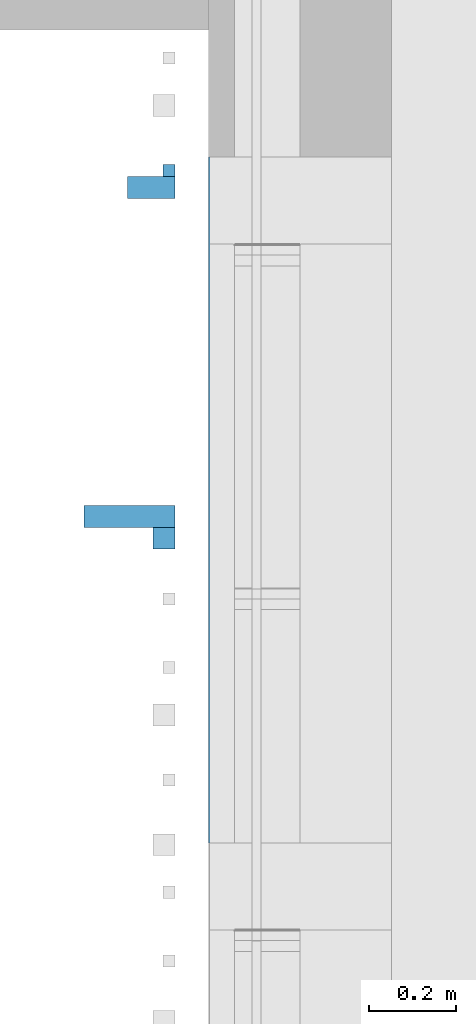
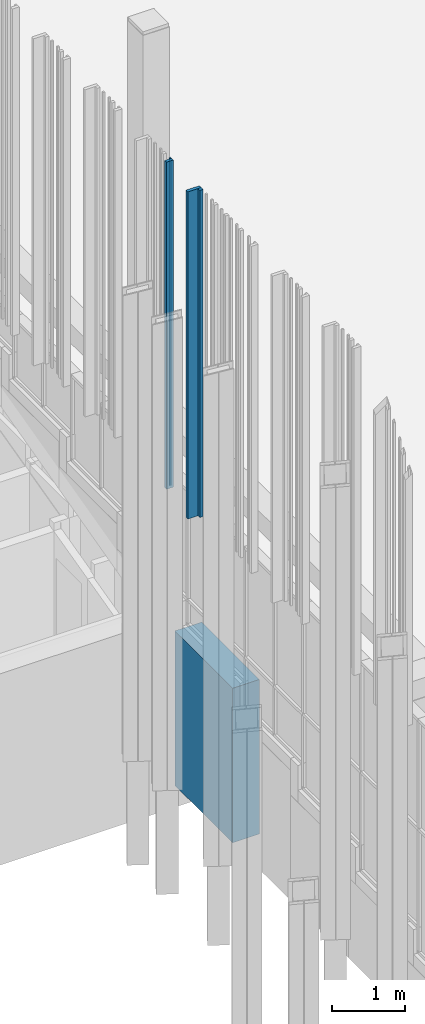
# One storey, part 116 of 390: 5 walls.
"""IFC2X3 building model written with IfcOpenShell, lengths in millimetres."""

from ifc_helpers import new_model, entity, si_unit, converted_unit, derived_unit, money_unit, direction, frame, origin_with_axes, place, context, subcontext, project, spatial, faceted_brep, material, material_list, type_object, element, save


model = new_model("IFC2X3")

# Units and contexts
model_context = context("Model", 3, precision=1e-05, world=origin_with_axes(), true_north=direction((0.0, 1.0)))
body_context = subcontext(model_context, "Body", "Model", "MODEL_VIEW")
ifc_project = project(units=[si_unit("LENGTHUNIT", "METRE", prefix="MILLI"), si_unit("AREAUNIT", "SQUARE_METRE"), si_unit("VOLUMEUNIT", "CUBIC_METRE"), converted_unit("PLANEANGLEUNIT", "DEGREE", entity("IfcPlaneAngleMeasure", 0.0174532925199), si_unit("PLANEANGLEUNIT", "RADIAN"), dimensions=[0, 0, 0, 0, 0, 0, 0]), si_unit("SOLIDANGLEUNIT", "STERADIAN"), money_unit("EUR"), converted_unit("TIMEUNIT", "Year", entity("IfcTimeMeasure", 31556926.0), si_unit("TIMEUNIT", "SECOND"), dimensions=[0, 0, 1, 0, 0, 0, 0]), si_unit("MASSUNIT", "GRAM", prefix="KILO"), si_unit("THERMODYNAMICTEMPERATUREUNIT", "DEGREE_CELSIUS"), si_unit("LUMINOUSINTENSITYUNIT", "LUMEN"), si_unit("ENERGYUNIT", "JOULE", prefix="MEGA"), derived_unit("THERMALCONDUCTANCEUNIT", [(si_unit("POWERUNIT", "WATT"), 1), (si_unit("LENGTHUNIT", "METRE"), -1), (si_unit("THERMODYNAMICTEMPERATUREUNIT", "KELVIN"), -1)]), derived_unit("SPECIFICHEATCAPACITYUNIT", [(si_unit("ENERGYUNIT", "JOULE"), 1), (si_unit("MASSUNIT", "GRAM", prefix="KILO"), -1), (si_unit("THERMODYNAMICTEMPERATUREUNIT", "KELVIN"), -1)]), derived_unit("MASSDENSITYUNIT", [(si_unit("MASSUNIT", "GRAM", prefix="KILO"), 1), (si_unit("VOLUMEUNIT", "CUBIC_METRE"), -1)])], contexts=[model_context])

# Site, building, storey
site_placement = place(None, origin_with_axes())
site = spatial("IfcSite", under=ifc_project, at=site_placement, Name="Site", CompositionType="ELEMENT")
building_placement = place(site_placement, origin_with_axes())
building = spatial("IfcBuilding", under=site, at=building_placement, Name="Building", CompositionType="ELEMENT")
storey_placement = place(building_placement, origin_with_axes())
storey = spatial("IfcBuildingStorey", under=building, at=storey_placement, Name="1 korrus", CompositionType="ELEMENT", Elevation=0.0)

# Walls
ifc_material_1 = material(Name="Membraan - Veekindel")
ifc_material_2 = material(Name="Soojustus - Plastik Kõva")
ifc_material_3 = material(Name="Raudbetoon - Konstruktsioon")
ifc_material_4 = material(Name="Krohv - Lubjakivi")
ifc_material_list = material_list([ifc_material_1, ifc_material_1, ifc_material_2, ifc_material_2, ifc_material_3, ifc_material_4])
wall_type_1 = type_object("IfcWallType", Name="VS-03", PredefinedType="NOTDEFINED")
wall_1_placement = place(storey_placement, frame((122909.999995, 56512.5685601, -620.0), z_axis=(0.0, 0.0, 1.0), x_axis=(0.0, 1.0, 0.0)))
element("IfcWall", 1, at=wall_1_placement, inside=storey, type_object=wall_type_1, material=ifc_material_list, Name="VS-03", context=body_context, shape_type="Brep", body=[
    faceted_brep([(1574.99999999, 420.000000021, 0.0), (1574.99999999, 415.000000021, 0.0), (-5.563549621e-09, 415.0, 0.0), (-5.62749846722e-09, 420.0, 0.0), (1574.99999999, 420.000000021, 2570.0), (1574.99999999, 415.000000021, 2570.0), (-5.563549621e-09, 415.0, 2570.0), (-5.62749846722e-09, 420.0, 2570.0)], [[[0, 1, 2, 3]], [[0, 4, 5, 1]], [[1, 5, 6, 2]], [[3, 2, 6, 7]], [[4, 0, 3, 7]], [[5, 4, 7, 6]]]),
    faceted_brep([(1574.99999999, 415.000000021, 0.0), (1574.99999999, 410.000000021, 0.0), (-5.49249534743e-09, 410.0, 0.0), (-5.563549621e-09, 415.0, 0.0), (1574.99999999, 415.000000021, 2570.0), (1574.99999999, 410.000000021, 2570.0), (-5.49249534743e-09, 410.0, 2570.0), (-5.563549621e-09, 415.0, 2570.0)], [[[0, 1, 2, 3]], [[0, 4, 5, 1]], [[1, 5, 6, 2]], [[3, 2, 6, 7]], [[4, 0, 3, 7]], [[5, 4, 7, 6]]]),
    faceted_brep([(1574.99999999, 410.000000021, 0.0), (1575.0, 360.000000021, 0.0), (-4.82458517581e-09, 360.0, 0.0), (-5.49249534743e-09, 410.0, 0.0), (1574.99999999, 410.000000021, 2570.0), (1575.0, 360.000000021, 2570.0), (-4.82458517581e-09, 360.0, 2570.0), (-5.49249534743e-09, 410.0, 2570.0)], [[[0, 1, 2, 3]], [[0, 4, 5, 1]], [[1, 5, 6, 2]], [[3, 2, 6, 7]], [[4, 0, 3, 7]], [[5, 4, 7, 6]]]),
    faceted_brep([(1575.0, 360.000000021, 0.0), (1575.0, 210.000000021, 0.0), (-2.81374923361e-09, 210.0, 0.0), (-4.82458517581e-09, 360.0, 0.0), (1575.0, 360.000000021, 2570.0), (1575.0, 210.000000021, 2570.0), (-2.81374923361e-09, 210.0, 2570.0), (-4.82458517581e-09, 360.0, 2570.0)], [[[0, 1, 2, 3]], [[0, 4, 5, 1]], [[1, 5, 6, 2]], [[3, 2, 6, 7]], [[4, 0, 3, 7]], [[5, 4, 7, 6]]]),
    faceted_brep([(1575.0, 210.000000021, 0.0), (1575.0, 10.0000000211, 0.0), (-1.35003119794e-10, 10.0, 0.0), (-2.81374923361e-09, 210.0, 0.0), (1575.0, 210.000000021, 2570.0), (1575.0, 10.0000000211, 2570.0), (-1.35003119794e-10, 10.0, 2570.0), (-2.81374923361e-09, 210.0, 2570.0)], [[[0, 1, 2, 3]], [[0, 4, 5, 1]], [[1, 5, 6, 2]], [[3, 2, 6, 7]], [[4, 0, 3, 7]], [[5, 4, 7, 6]]]),
    faceted_brep([(1575.0, 10.0000000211, 0.0), (1575.0, 2.11173301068e-08, 0.0), (0.0, 0.0, 0.0), (-1.35003119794e-10, 10.0, 0.0), (1575.0, 10.0000000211, 2570.0), (1575.0, 2.11173301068e-08, 2570.0), (0.0, 0.0, 2570.0), (-1.35003119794e-10, 10.0, 2570.0)], [[[0, 1, 2, 3]], [[0, 4, 5, 1]], [[1, 5, 6, 2]], [[3, 2, 6, 7]], [[4, 0, 3, 7]], [[5, 4, 7, 6]]]),
])
ifc_material_5 = material(Name="Site specified")
wall_type_2 = type_object("IfcWallType", Name="Puitfassaadi ribistik", PredefinedType="NOTDEFINED")
wall_2_placement = place(storey_placement, frame((122398.999996, 58056.9999924, 4424.99966101), z_axis=(0.0, 0.0, 1.0), x_axis=(0.0, 1.0, 0.0)))
element("IfcWall", 2, at=wall_2_placement, inside=storey, type_object=wall_type_2, material=ifc_material_5, Name="Site specified", context=body_context, shape_type="Brep", body=[
    faceted_brep([(14.0, 14.0, 5440.00033899), (14.0, 14.0, 0.0), (-14.0, 14.0, 0.0), (-14.0, 14.0, 5440.00033899), (14.0, -14.0, 5440.00033899), (14.0, -14.0, 0.0), (-14.0, -14.0, 0.0), (-14.0, -14.0, 5440.00033899)], [[[0, 1, 2, 3]], [[4, 5, 1, 0]], [[2, 1, 5, 6]], [[3, 2, 6, 7]], [[4, 0, 3, 7]], [[7, 6, 5, 4]]]),
])
wall_3_placement = place(storey_placement, frame((122358.499996, 58017.9999924, 4424.99966101), z_axis=(0.0, 0.0, 1.0), x_axis=(0.0, 1.0, 0.0)))
element("IfcWall", 3, at=wall_3_placement, inside=storey, type_object=wall_type_2, material=ifc_material_5, Name="Site specified", context=body_context, shape_type="Brep", body=[
    faceted_brep([(25.0, 54.5, 5440.00033899), (25.0, 54.5, 0.0), (-25.0, 54.5, 0.0), (-25.0, 54.5, 5440.00033899), (25.0, -54.5, 5440.00033899), (25.0, -54.5, 0.0), (-25.0, -54.5, 0.0), (-25.0, -54.5, 5440.00033899)], [[[0, 1, 2, 3]], [[4, 5, 1, 0]], [[2, 1, 5, 6]], [[3, 2, 6, 7]], [[4, 0, 3, 7]], [[7, 6, 5, 4]]]),
])
wall_4_placement = place(storey_placement, frame((122387.999996, 57211.9997856, 4424.99966101), z_axis=(0.0, 0.0, 1.0), x_axis=(0.0, 1.0, 0.0)))
element("IfcWall", 4, at=wall_4_placement, inside=storey, type_object=wall_type_2, material=ifc_material_5, Name="Site specified", context=body_context, shape_type="Brep", body=[
    faceted_brep([(25.0, 25.0, 5440.00033899), (25.0, 25.0, 0.0), (-25.0, 25.0, 0.0), (-25.0, 25.0, 5440.00033899), (25.0, -25.0, 5440.00033899), (25.0, -25.0, 0.0), (-25.0, -25.0, 0.0), (-25.0, -25.0, 5440.00033899)], [[[0, 1, 2, 3]], [[4, 5, 1, 0]], [[2, 1, 5, 6]], [[3, 2, 6, 7]], [[4, 0, 3, 7]], [[7, 6, 5, 4]]]),
])
wall_5_placement = place(storey_placement, frame((122308.499996, 57261.9997856, 4424.99966101), z_axis=(0.0, 0.0, 1.0), x_axis=(0.0, 1.0, 0.0)))
element("IfcWall", 5, at=wall_5_placement, inside=storey, type_object=wall_type_2, material=ifc_material_5, Name="Site specified", context=body_context, shape_type="Brep", body=[
    faceted_brep([(25.0, 104.5, 5440.00033899), (25.0, 104.5, 0.0), (-25.0, 104.5, 0.0), (-25.0, 104.5, 5440.00033899), (25.0, -104.5, 5440.00033899), (25.0, -104.5, 0.0), (-25.0, -104.5, 0.0), (-25.0, -104.5, 5440.00033899)], [[[0, 1, 2, 3]], [[4, 5, 1, 0]], [[2, 1, 5, 6]], [[3, 2, 6, 7]], [[4, 0, 3, 7]], [[7, 6, 5, 4]]]),
])

save(model, "model.ifc")
